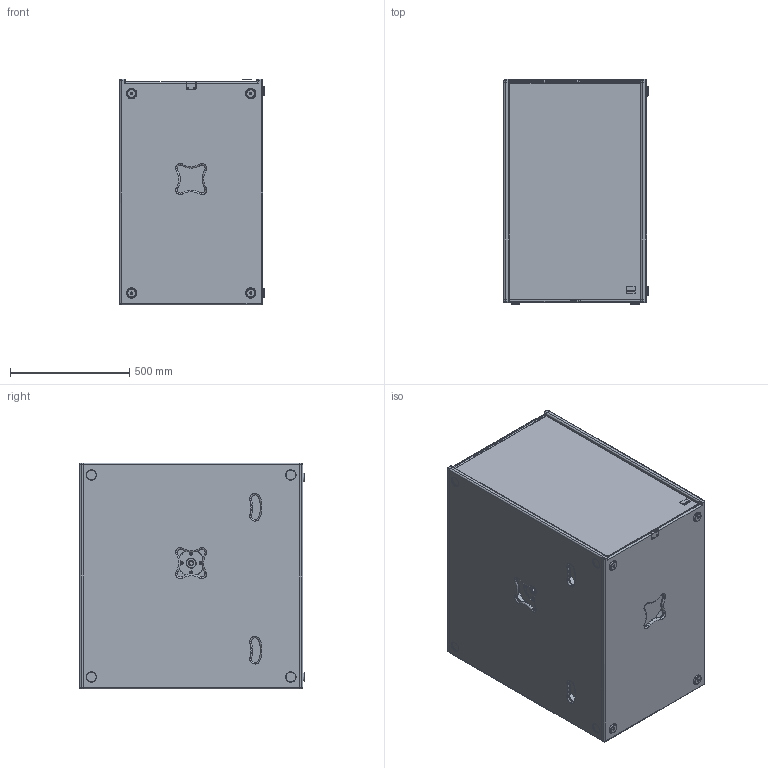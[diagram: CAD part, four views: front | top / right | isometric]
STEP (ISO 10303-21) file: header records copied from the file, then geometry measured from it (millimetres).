
FILE_DESCRIPTION (( 'STEP AP203' ), '1' );
FILE_NAME ('Seeburg_Galeo-Sub-GV.STEP', '2012-10-17T09:22:42', ( 'Fabian' ), ( '' ), 'SwSTEP 2.0', 'SolidWorks 2009', '' );
FILE_SCHEMA (( 'CONFIG_CONTROL_DESIGN' ));
Products named in the file (2): GALEO_Sub_GV; Seeburg_Galeo-Sub-GV
Assembly tree (1 placements, depth 2):
  Seeburg_Galeo-Sub-GV
    GALEO_Sub_GV
Bounding box: 607.06 x 944.01 x 948.11 mm (x, y, z)
Volume: 58924178.9 mm3; surface area: 8744737.3 mm2
Topology: 37 solids, 37 shells, 1234 faces, 3006 edges, 1873 vertices
Faces by surface type: cylinder 466, torus 338, plane 284, cone 122, sphere 20, bspline 4
Entity records: 44021 total; most frequent: CARTESIAN_POINT 15020, DIRECTION 6301, ORIENTED_EDGE 5988, EDGE_CURVE 2994, AXIS2_PLACEMENT_3D 2611, VERTEX_POINT 1867, CIRCLE 1377, EDGE_LOOP 1349
